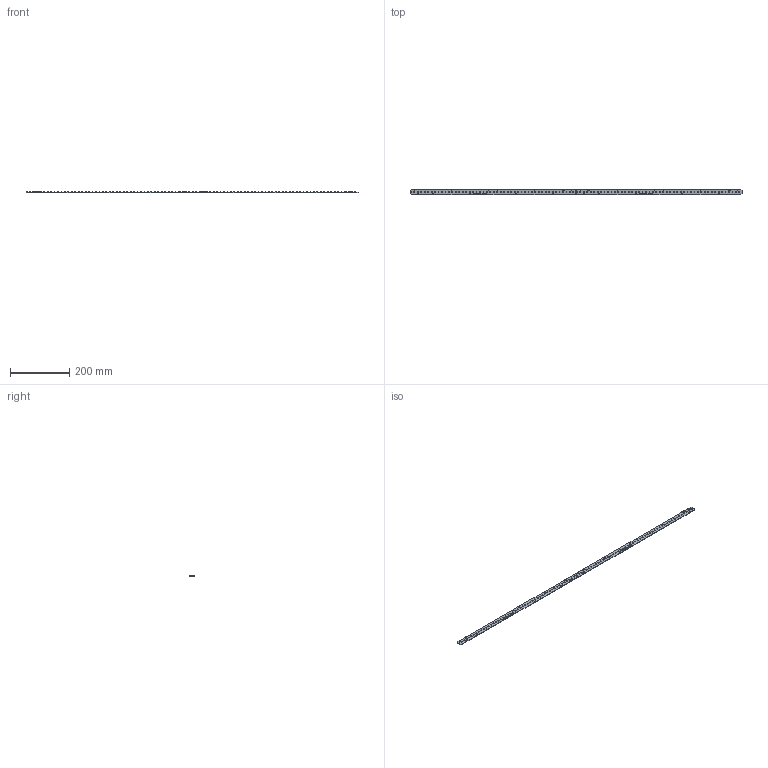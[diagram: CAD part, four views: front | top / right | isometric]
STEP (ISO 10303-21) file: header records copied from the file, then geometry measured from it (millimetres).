
FILE_DESCRIPTION (( 'STEP AP214' ), '1' );
FILE_NAME ('VB96 (L2-0354).step', '2025-11-18T18:55:57', ( '' ), ( '' ), 'SwSTEP 2.0', 'SolidWorks 2022', '' );
FILE_SCHEMA (( 'AUTOMOTIVE_DESIGN' ));
Length unit declared in the file: millimetre
Products named in the file (1): VB96 (L2-0354)
Bounding box: 1120 x 20 x 4.3 mm (x, y, z)
Volume: 36128.2 mm3; surface area: 52076.7 mm2
Topology: 127 solids, 127 shells, 2536 faces, 6958 edges, 4620 vertices
Faces by surface type: plane 1852, cylinder 684
Entity records: 81094 total; most frequent: CARTESIAN_POINT 15363, ORIENTED_EDGE 13916, DIRECTION 12720, EDGE_CURVE 6958, VECTOR 5438, LINE 5438, VERTEX_POINT 4620, AXIS2_PLACEMENT_3D 3641
